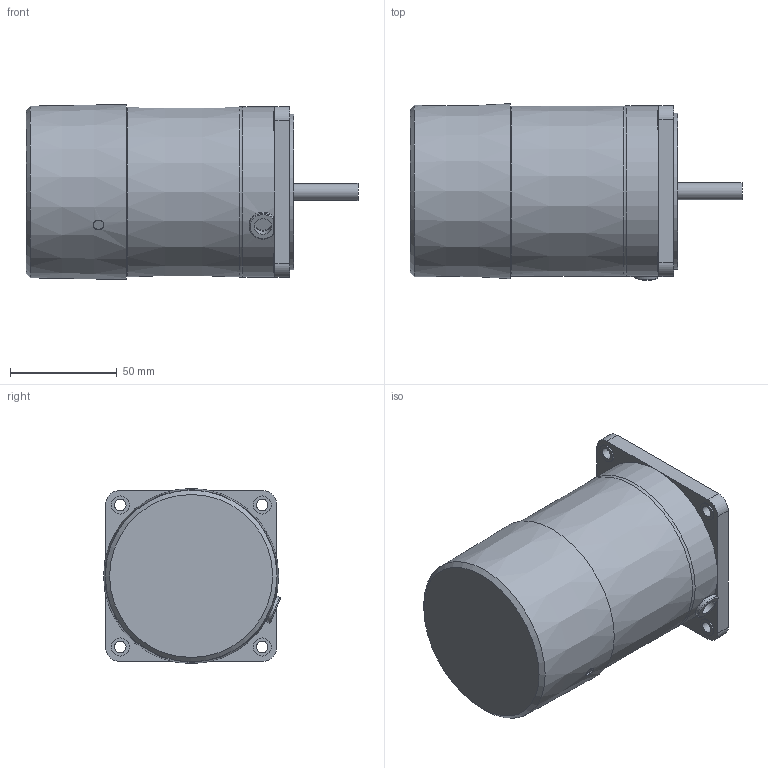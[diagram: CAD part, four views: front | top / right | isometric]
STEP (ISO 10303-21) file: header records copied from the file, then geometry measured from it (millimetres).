
FILE_DESCRIPTION((''),'2;1');
FILE_NAME('\\Spgrnd02\고객배포용도면\3D\01 Standard AC Motor\03 ELECTROMAGNETIC BRAKE MOTOR\03_815_BK\S8R15(25)S-E_R01.stp','2015-03-23T18:04:41',('smkim'),(''),'Autodesk Inventor 2012','Autodesk Inventor 2012','');
FILE_SCHEMA(('AUTOMOTIVE_DESIGN { 1 0 10303 214 1 1 1 1 }'));
Length unit declared in the file: millimetre
Products named in the file (1): S8R15(25)S-E
Bounding box: 155.5 x 82.79 x 82 mm (x, y, z)
Volume: 630744.3 mm3; surface area: 48219 mm2
Topology: 1 solids, 2 shells, 85 faces, 191 edges, 125 vertices
Faces by surface type: plane 48, cylinder 32, cone 3, torus 2
Full cylindrical faces by diameter (mm): 5 x1, 5.5 x4, 8 x2, 8.5 x4, 34 x1, 73 x1, 78 x1, 80 x1
Entity records: 2478 total; most frequent: CARTESIAN_POINT 469, DIRECTION 410, ORIENTED_EDGE 340, EDGE_CURVE 170, AXIS2_PLACEMENT_3D 160, EDGE_LOOP 127, VERTEX_POINT 123, VECTOR 90
